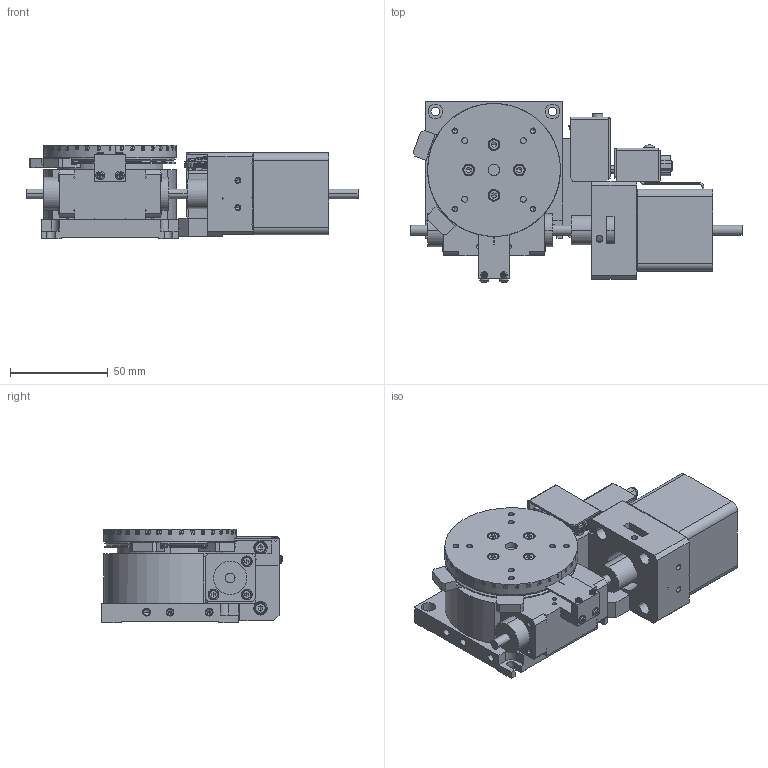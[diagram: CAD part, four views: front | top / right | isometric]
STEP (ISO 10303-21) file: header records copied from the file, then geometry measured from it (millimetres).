
FILE_DESCRIPTION( (''), '2;1');
FILE_NAME ('MVRA07A-W02.stp','2021-03-16T11:15:01',(''),(''),'spGate 15.6.6','','');
FILE_SCHEMA (('AUTOMOTIVE_DESIGN'));
Length unit declared in the file: millimetre
Products named in the file (3): Assembly; MVRA07A-W02-prt0; MVRA07A-W02-prt1
Assembly tree (2 placements, depth 2):
  Assembly
    MVRA07A-W02-prt0
    MVRA07A-W02-prt1
Bounding box: 170 x 92.49 x 48 mm (x, y, z)
Volume: 273375.1 mm3; surface area: 93387.4 mm2
Topology: 1 solids, 2 shells, 4614 faces, 12202 edges, 7848 vertices
Faces by surface type: plane 3262, cylinder 842, bspline 475, sphere 35
Entity records: 246699 total; most frequent: CARTESIAN_POINT 38176, ORIENTED_EDGE 24788, DIRECTION 20413, COLOUR_RGB 17320, PRESENTATION_STYLE_ASSIGNMENT 17320, STYLED_ITEM 17320, EDGE_CURVE 12704, DRAUGHTING_PRE_DEFINED_CURVE_FONT 12704
